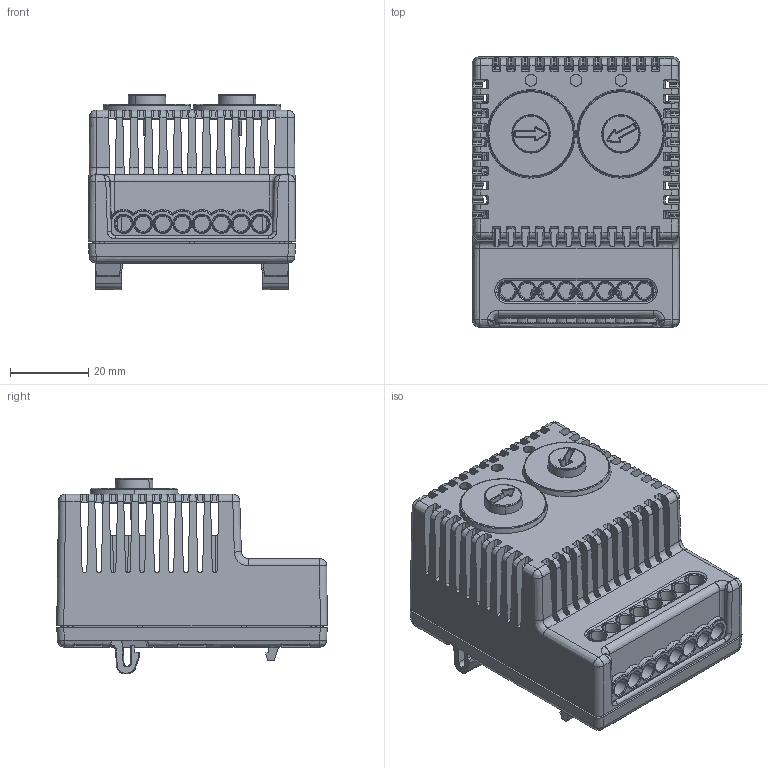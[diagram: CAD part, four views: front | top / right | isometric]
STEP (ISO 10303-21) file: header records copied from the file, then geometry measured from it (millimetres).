
FILE_DESCRIPTION(/* description */ (''),/* implementation_level */ '2;1');
FILE_NAME(/* name */ 'ETUH',/* time_stamp */ '2016-08-01T16:42:05+02:00',/* author */ (''),/* organization */ (''),/* preprocessor_version */ 'ST-DEVELOPER v10',/* originating_system */ '',/* authorisation */ '');
FILE_SCHEMA (('CONFIG_CONTROL_DESIGN'));
Products named in the file (1): 1
Bounding box: 53 x 69.2 x 50.04 mm (x, y, z)
Surface area: 38272.2 mm2 (no closed solid volume)
Topology: 0 solids, 1410 shells, 1455 faces, 8224 edges, 8128 vertices
Faces by surface type: bspline 1106, plane 349
Entity records: 109129 total; most frequent: CARTESIAN_POINT 68323, ORIENTED_EDGE 8320, EDGE_CURVE 8230, VERTEX_POINT 8140, B_SPLINE_CURVE_WITH_KNOTS 7259, EDGE_LOOP 1523, ADVANCED_FACE 1455, FACE_OUTER_BOUND 1455
